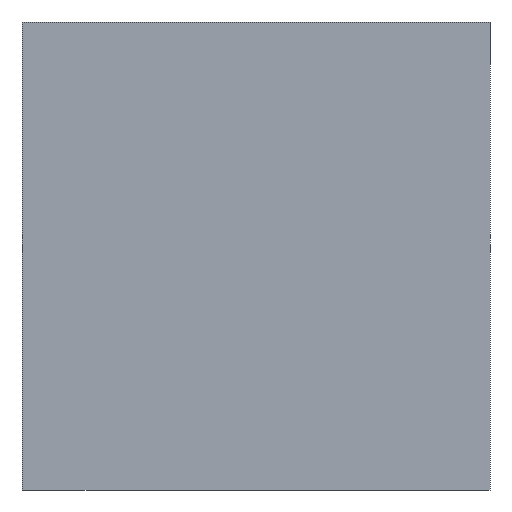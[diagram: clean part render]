
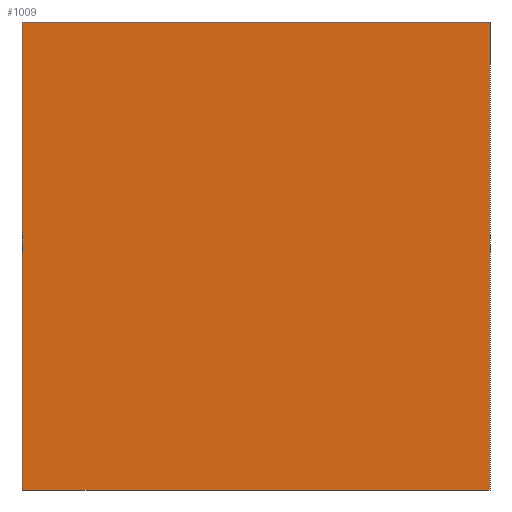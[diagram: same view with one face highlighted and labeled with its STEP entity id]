
A CAD part, left-side view. The second image highlights one B-rep face of the part: STEP entity #1009.
In plain terms, the highlighted planar face has unit normal (-1, 0, 0).
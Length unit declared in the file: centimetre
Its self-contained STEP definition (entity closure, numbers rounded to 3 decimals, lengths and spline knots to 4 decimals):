
#13 = EDGE_CURVE ( 'NONE', #721, #1213, #653, .T. ) ;
#73 = CARTESIAN_POINT ( 'NONE',  ( 0., 1000., 1000. ) ) ;
#82 = CARTESIAN_POINT ( 'NONE',  ( 0., 1000., 1000. ) ) ;
#109 = CARTESIAN_POINT ( 'NONE',  ( 0., 1000., 0. ) ) ;
#200 = ORIENTED_EDGE ( 'NONE', *, *, #1316, .F. ) ;
#271 = CARTESIAN_POINT ( 'NONE',  ( 0., 0., 0. ) ) ;
#437 = VECTOR ( 'NONE', #725, 100. ) ;
#493 = VECTOR ( 'NONE', #807, 100. ) ;
#497 = VERTEX_POINT ( 'NONE', #271 ) ;
#504 = CARTESIAN_POINT ( 'NONE',  ( 0., 1000., 1000. ) ) ;
#538 = CARTESIAN_POINT ( 'NONE',  ( 0., 1000., 1000. ) ) ;
#622 = LINE ( 'NONE', #82, #493 ) ;
#629 = DIRECTION ( 'NONE',  ( 0., 0., -1. ) ) ;
#653 = LINE ( 'NONE', #538, #1260 ) ;
#665 = EDGE_CURVE ( 'NONE', #721, #937, #622, .T. ) ;
#679 = CARTESIAN_POINT ( 'NONE',  ( 0., 1000., 0. ) ) ;
#712 = FACE_OUTER_BOUND ( 'NONE', #714, .T. ) ;
#714 = EDGE_LOOP ( 'NONE', ( #1588, #200, #1121, #773 ) ) ;
#721 = VERTEX_POINT ( 'NONE', #73 ) ;
#725 = DIRECTION ( 'NONE',  ( 0., 0., -1. ) ) ;
#773 = ORIENTED_EDGE ( 'NONE', *, *, #13, .T. ) ;
#807 = DIRECTION ( 'NONE',  ( 0., -1., 0. ) ) ;
#882 = CARTESIAN_POINT ( 'NONE',  ( 0., 0., 1000. ) ) ;
#937 = VERTEX_POINT ( 'NONE', #1414 ) ;
#945 = AXIS2_PLACEMENT_3D ( 'NONE', #504, #1207, #629 ) ;
#951 = DIRECTION ( 'NONE',  ( 0., 0., -1. ) ) ;
#1009 = ADVANCED_FACE ( 'NONE', ( #712 ), #1633, .F. ) ;
#1076 = LINE ( 'NONE', #679, #1169 ) ;
#1104 = DIRECTION ( 'NONE',  ( 0., -1., 0. ) ) ;
#1121 = ORIENTED_EDGE ( 'NONE', *, *, #665, .F. ) ;
#1132 = LINE ( 'NONE', #882, #437 ) ;
#1169 = VECTOR ( 'NONE', #1104, 100. ) ;
#1207 = DIRECTION ( 'NONE',  ( 1., 0., 0. ) ) ;
#1213 = VERTEX_POINT ( 'NONE', #109 ) ;
#1260 = VECTOR ( 'NONE', #951, 100. ) ;
#1316 = EDGE_CURVE ( 'NONE', #937, #497, #1132, .T. ) ;
#1414 = CARTESIAN_POINT ( 'NONE',  ( 0., 0., 1000. ) ) ;
#1546 = EDGE_CURVE ( 'NONE', #1213, #497, #1076, .T. ) ;
#1588 = ORIENTED_EDGE ( 'NONE', *, *, #1546, .T. ) ;
#1633 = PLANE ( 'NONE',  #945 ) ;
